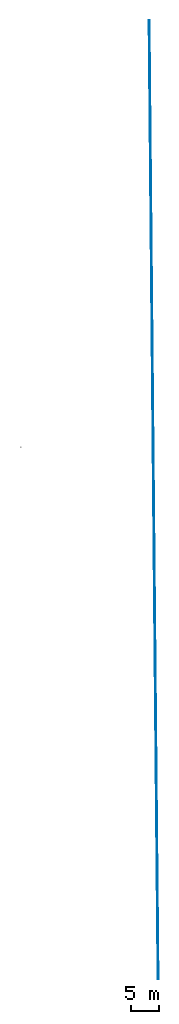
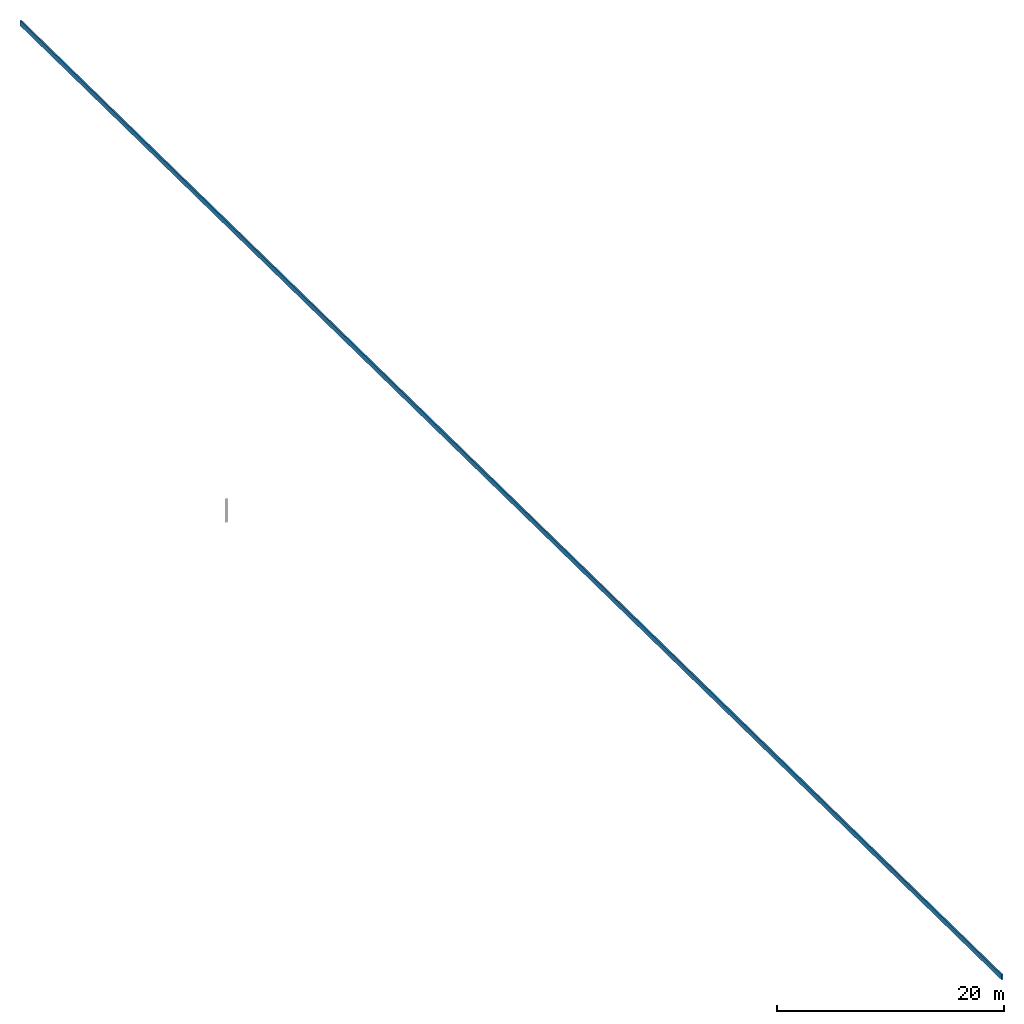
# One storey, part 2 of 2: 1 wall.
"""IFC2X3 building model written with IfcOpenShell, lengths in millimetres."""

from ifc_helpers import new_model, entity, si_unit, converted_unit, derived_unit, money_unit, direction, frame, origin_with_axes, place, context, subcontext, project, spatial, polyline, outline, extrude, material, layer, layer_set, layer_usage, type_object, element, save


model = new_model("IFC2X3")

# Units and contexts
model_context = context("Model", 3, precision=0.01, world=origin_with_axes(), true_north=direction((0.0, 1.0)))
body_context = subcontext(model_context, "Body", "Model", "MODEL_VIEW")
ifc_project = project(units=[si_unit("LENGTHUNIT", "METRE", prefix="MILLI"), si_unit("AREAUNIT", "SQUARE_METRE"), si_unit("VOLUMEUNIT", "CUBIC_METRE"), converted_unit("PLANEANGLEUNIT", "DEGREE", entity("IfcPlaneAngleMeasure", 0.0174532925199), si_unit("PLANEANGLEUNIT", "RADIAN"), dimensions=[0, 0, 0, 0, 0, 0, 0]), si_unit("SOLIDANGLEUNIT", "STERADIAN"), money_unit("EUR"), converted_unit("TIMEUNIT", "Year", entity("IfcTimeMeasure", 31556926.0), si_unit("TIMEUNIT", "SECOND"), dimensions=[0, 0, 1, 0, 0, 0, 0]), si_unit("MASSUNIT", "GRAM", prefix="KILO"), si_unit("THERMODYNAMICTEMPERATUREUNIT", "DEGREE_CELSIUS"), si_unit("LUMINOUSINTENSITYUNIT", "LUMEN"), si_unit("ENERGYUNIT", "JOULE", prefix="MEGA"), derived_unit("THERMALCONDUCTANCEUNIT", [(si_unit("POWERUNIT", "WATT"), 1), (si_unit("LENGTHUNIT", "METRE"), -1), (si_unit("THERMODYNAMICTEMPERATUREUNIT", "KELVIN"), -1)]), derived_unit("SPECIFICHEATCAPACITYUNIT", [(si_unit("ENERGYUNIT", "JOULE"), 1), (si_unit("MASSUNIT", "GRAM", prefix="KILO"), -1), (si_unit("THERMODYNAMICTEMPERATUREUNIT", "KELVIN"), -1)]), derived_unit("MASSDENSITYUNIT", [(si_unit("MASSUNIT", "GRAM", prefix="KILO"), 1), (si_unit("VOLUMEUNIT", "CUBIC_METRE"), -1)])], contexts=[model_context])

# Site, building, storey
site_placement = place(None, origin_with_axes())
site = spatial("IfcSite", under=ifc_project, at=site_placement, Name="Politse- ja Piirivalveameti ning Päästeameti ühishoone", CompositionType="ELEMENT")
building_placement = place(site_placement, origin_with_axes())
building = spatial("IfcBuilding", under=site, at=building_placement, Name="Politse- ja Piirivalveameti ning Päästeameti ühishoone", CompositionType="ELEMENT")
storey_placement = place(building_placement, frame((0.0, 0.0, -4000.0), z_axis=(0.0, 0.0, 1.0), x_axis=(1.0, 0.0, 0.0)))
storey = spatial("IfcBuildingStorey", under=building, at=storey_placement, Name="Vundament", CompositionType="ELEMENT", Elevation=-4000.0)

# Wall
ifc_material = material(Name="KON-00_GENEERILINE - KONSTRUKTSIOON")
ifc_layer = layer(ifc_material, 150.0, ventilated="UNKNOWN")
ifc_layer_set = layer_set([ifc_layer], Name="KON-00_GENEERILINE - KONSTRUKTSIOON 150")
ifc_layer_usage = layer_usage(ifc_layer_set, "AXIS2", "NEGATIVE", 0.0)
wall_type = type_object("IfcWallType", Name="KON-00_GENEERILINE - KONSTRUKTSIOON 150", PredefinedType="NOTDEFINED")
wall_placement = place(storey_placement, frame((108732.642618, -56288.3492211, 3500.0), z_axis=(0.0, 0.0, 1.0), x_axis=(-0.00935758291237, 0.999956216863, 0.0)))
element("IfcWallStandardCase", 1, at=wall_placement, inside=storey, type_object=wall_type, material=ifc_layer_usage, Name="SS-01", context=body_context, shape_type="SweptSolid", body=[
    extrude(outline(polyline([(0.0, -150.0), (170115.901552, -150.0), (170115.901552, 0.0), (0.0, 0.0), (0.0, -150.0)])), origin_with_axes(), (0.0, 0.0, 1.0), 550.0),
])

save(model, "model.ifc")
